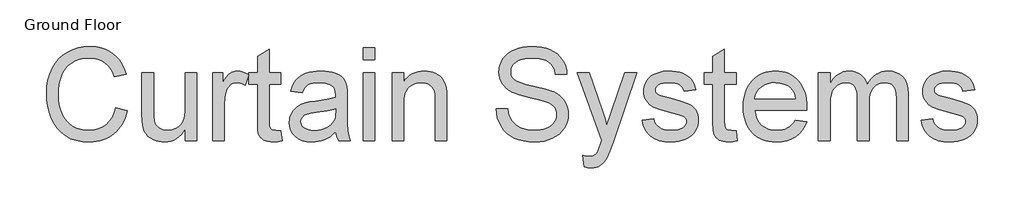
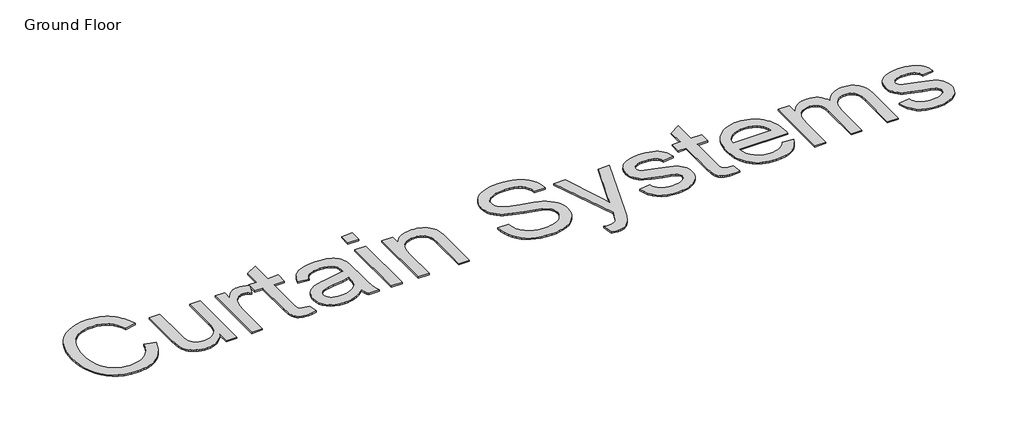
# One storey, part 3 of 12: 1 proxy.
"""IFC4 building model written with IfcOpenShell, lengths in millimetres."""

from ifc_helpers import new_model, si_unit, origin, origin_with_axes, place, context, project, spatial, polyline, outline, extrude, element, save

model = new_model("IFC4")

# Units and contexts
model_context = context("Model", 3, world=origin())
ifc_project = project(units=[si_unit("LENGTHUNIT", "METRE", prefix="MILLI")], contexts=[model_context])

# Site, building, storey
site = spatial("IfcSite", under=ifc_project)
building = spatial("IfcBuilding", under=site)
storey = spatial("IfcBuildingStorey", under=building, Name="Ground Floor", Elevation=0.0)

# Proxy
placement = place(None, origin())
element("IfcBuildingElementProxy", 1, Name="1200mm Arial", ObjectType="1200mm Arial", at=placement, inside=storey, context=model_context, shape_type="SweptSolid", body=[
    extrude(outline(polyline([(-31551.5643915, -3189.6186223), (-31404.6553006, -3227.4936223), (-31433.7250804, -3318.8545065), (-31451.8780012, -3360.2107965), (-31472.4429426, -3398.6843183), (-31495.4199046, -3434.275072), (-31520.8088872, -3466.9830577), (-31548.6098904, -3496.8082752), (-31578.8229142, -3523.7507246), (-31611.120677, -3547.6579733), (-31645.1758971, -3568.3775889), (-31680.9885747, -3585.9095713), (-31718.5587096, -3600.2539206), (-31757.886302, -3611.4106367), (-31798.9713517, -3619.3797196), (-31841.8138588, -3624.1611693), (-31886.4138233, -3625.7549859), (-31975.9993169, -3620.9309447), (-32056.8154568, -3606.4588212), (-32128.862243, -3582.3386152), (-32192.1396756, -3548.5703268), (-32247.5175165, -3505.6560868), (-32295.8655278, -3454.0980257), (-32337.1837096, -3393.8961436), (-32371.4720619, -3325.0504405), (-32398.3988197, -3250.5378339), (-32417.6322182, -3173.3352416), (-32429.1722572, -3093.4426635), (-32433.0189369, -3010.8600996), (-32428.6701265, -2922.2519675), (-32415.6236954, -2839.4900712), (-32393.8796436, -2762.5744106), (-32363.437971, -2691.5049859), (-32324.9801408, -2627.4564241), (-32279.1876159, -2571.6033524), (-32226.0603964, -2523.9457707), (-32165.5984824, -2484.4836791), (-32099.8552295, -2453.5398758), (-32030.8839937, -2431.4371592), (-31958.684775, -2418.1755293), (-31883.2575733, -2413.7549859), (-31799.2313837, -2419.4756891), (-31722.1812238, -2436.6377984), (-31686.2721551, -2449.5093805), (-31652.1070939, -2465.2413141), (-31619.6860401, -2483.8335992), (-31589.0089937, -2505.2862359), (-31560.3359868, -2529.3347089), (-31533.9270513, -2555.714503), (-31509.7821871, -2584.425618), (-31487.9013943, -2615.4680541), (-31450.9320229, -2684.5468893), (-31423.0189369, -2762.9510087), (-31569.9280278, -2797.9566905), (-31593.0619057, -2740.1847622), (-31620.8584256, -2690.8235229), (-31653.3175875, -2649.8729724), (-31690.4393915, -2617.3331109), (-31732.4390363, -2592.5404085), (-31779.531721, -2574.8313354), (-31831.7174454, -2564.2058915), (-31888.9962096, -2560.6640768), (-31954.9008616, -2564.5914561), (-32015.1744767, -2576.3735939), (-32069.8170548, -2596.0104902), (-32118.828596, -2623.502145), (-32161.5904035, -2657.6111649), (-32197.4837807, -2697.1001564), (-32226.5087274, -2741.9691194), (-32248.6652437, -2792.2180541), (-32265.0472572, -2845.5694391), (-32276.7486954, -2899.745753), (-32283.7695584, -2954.7469959), (-32286.109846, -3010.5731677), (-32283.3391606, -3080.7279973), (-32275.0271045, -3146.2919177), (-32261.1736777, -3207.2649291), (-32241.7788801, -3263.6470314), (-32216.5288801, -3314.3173971), (-32185.109846, -3358.155199), (-32147.5217778, -3395.1604369), (-32103.7646756, -3425.3331109), (-32055.963628, -3448.744954), (-32006.2437238, -3465.467699), (-31954.6049632, -3475.501346), (-31901.047346, -3478.845895), (-31837.1781166, -3474.2908524), (-31778.4198602, -3460.6257246), (-31724.7725768, -3437.8505115), (-31676.2362665, -3405.9652132), (-31633.9586564, -3365.1132956), (-31599.0874738, -3315.4382246), (-31571.6227189, -3256.9400001), (-31551.5643915, -3189.6186223)])), origin_with_axes(), (0.0, 0.0, 1.0), 20.0),
    extrude(outline(polyline([(-30670.109846, -3607.3913496), (-30670.109846, -3459.0475996), (-30695.5929781, -3498.1196432), (-30723.2639653, -3531.9820811), (-30753.1228077, -3560.6349131), (-30785.1695051, -3584.0781393), (-30819.4040577, -3602.3117597), (-30855.8264653, -3615.3357743), (-30894.4367281, -3623.150183), (-30935.234846, -3625.7549859), (-30971.6303538, -3623.9257956), (-31006.7884682, -3618.4382246), (-31040.709189, -3609.2922729), (-31073.3925165, -3596.4879405), (-31103.3948247, -3580.9218893), (-31129.2724881, -3563.4907814), (-31151.0255065, -3544.1946166), (-31168.6538801, -3523.033395), (-31183.0632373, -3499.7022516), (-31195.1592068, -3473.8963212), (-31212.4109824, -3414.8600996), (-31218.8669483, -3359.1953268), (-31221.0189369, -3278.2805541), (-31221.0189369, -2744.3004405), (-31074.109846, -2744.3004405), (-31074.109846, -3209.1299859), (-31071.8861244, -3302.095895), (-31065.2149596, -3358.908395), (-31056.4187061, -3385.3868219), (-31043.8026727, -3408.8703979), (-31027.3668595, -3429.359123), (-31007.1112665, -3446.8529973), (-30983.6456237, -3460.84989), (-30957.5796613, -3470.8476706), (-30928.9133794, -3476.8463389), (-30897.6467778, -3478.845895), (-30865.4476479, -3476.8015058), (-30834.2707125, -3470.6683382), (-30804.1159717, -3460.4463922), (-30774.9834256, -3446.1356677), (-30748.451199, -3428.3010619), (-30726.097417, -3407.5074717), (-30707.9220797, -3383.7548971), (-30693.9251869, -3357.0433382), (-30683.5059753, -3325.6691372), (-30676.0636812, -3287.9286365), (-30671.5983048, -3243.8218361), (-30670.109846, -3193.3487359), (-30670.109846, -2744.3004405), (-30523.2007551, -2744.3004405), (-30523.2007551, -3607.3913496), (-30670.109846, -3607.3913496)])), origin_with_axes(), (0.0, 0.0, 1.0), 20.0),
    extrude(outline(polyline([(-30321.2007551, -3607.3913496), (-30321.2007551, -2744.3004405), (-30192.6553006, -2744.3004405), (-30192.6553006, -2871.9850996), (-30168.4454284, -2831.1690484), (-30145.1680846, -2797.9566905), (-30122.8232693, -2772.3480257), (-30101.4109824, -2754.3430541), (-30079.962829, -2741.9153197), (-30057.5104142, -2733.0383666), (-30034.0537381, -2727.7121947), (-30009.5928006, -2725.9368041), (-29973.1524596, -2728.7702558), (-29936.4251869, -2737.2706109), (-29899.4109824, -2751.4378694), (-29862.109846, -2771.2720314), (-29911.1751869, -2902.9737359), (-29936.9990506, -2889.7928055), (-29962.8229142, -2880.3778552), (-29988.6467778, -2874.7288851), (-30014.4706415, -2872.845895), (-30036.9858226, -2874.6571521), (-30058.3353432, -2880.0909234), (-30078.5192033, -2889.1472089), (-30097.5374028, -2901.8260087), (-30114.6726123, -2917.7148581), (-30129.2075023, -2936.4012927), (-30141.1420726, -2957.8853126), (-30150.4763233, -2982.1669177), (-30160.8955349, -3022.2656393), (-30168.337829, -3064.2294177), (-30174.2916642, -3153.752145), (-30174.2916642, -3607.3913496), (-30321.2007551, -3607.3913496)])), origin_with_axes(), (0.0, 0.0, 1.0), 20.0),
    extrude(outline(polyline([(-29458.109846, -3484.8714632), (-29439.7462096, -3611.6953268), (-29497.9216358, -3622.2400712), (-29549.641096, -3625.7549859), (-29587.139498, -3624.2306606), (-29620.1545903, -3619.6576848), (-29648.686373, -3612.0360584), (-29672.734846, -3601.3657814), (-29692.9276727, -3588.2207175), (-29709.8925165, -3573.1747302), (-29723.6293773, -3556.2278197), (-29734.1382551, -3537.3799859), (-29741.9212807, -3512.1120527), (-29747.4805846, -3475.9048439), (-29751.9280278, -3370.6725996), (-29751.9280278, -2891.2095314), (-29862.109846, -2891.2095314), (-29862.109846, -2744.3004405), (-29751.9280278, -2744.3004405), (-29751.9280278, -2534.5532814), (-29605.0189369, -2448.1868041), (-29605.0189369, -2744.3004405), (-29458.109846, -2744.3004405), (-29458.109846, -2891.2095314), (-29605.0189369, -2891.2095314), (-29605.0189369, -3366.3686223), (-29603.0821471, -3414.7166337), (-29597.2717778, -3442.1186223), (-29587.1215648, -3457.2901422), (-29572.1652437, -3468.9467473), (-29550.9681557, -3476.3711081), (-29522.0956415, -3478.845895), (-29458.109846, -3484.8714632)])), origin_with_axes(), (0.0, 0.0, 1.0), 20.0),
    extrude(outline(polyline([(-28760.2916642, -3497.2095314), (-28795.1269802, -3529.9018254), (-28830.4823602, -3557.3934802), (-28866.3578041, -3579.6844959), (-28902.7533119, -3596.7748723), (-28940.0813481, -3609.453672), (-28978.7543773, -3618.5099575), (-29018.7723993, -3623.9437288), (-29060.1354142, -3625.7549859), (-29125.5469021, -3621.3972089), (-29182.9063659, -3608.323878), (-29232.2138055, -3586.534993), (-29273.469221, -3556.0305541), (-29306.044949, -3518.747351), (-29329.3133261, -3476.6221734), (-29343.2743524, -3429.6550214), (-29347.9280278, -3377.845895), (-29346.1705704, -3346.6958595), (-29340.8981983, -3316.9446166), (-29332.1109113, -3288.5921663), (-29319.8087096, -3261.6385087), (-29304.6461564, -3236.6754405), (-29287.2778148, -3214.2947587), (-29267.7036848, -3194.4964632), (-29245.9237665, -3177.2805541), (-29197.3246898, -3149.3047018), (-29143.0587096, -3129.0760087), (-29090.1915221, -3117.8139348), (-29015.9479142, -3106.9822587), (-28865.7391074, -3083.7407814), (-28807.7430136, -3070.6136507), (-28761.1524596, -3056.4822587), (-28760.2916642, -3023.7720314), (-28762.8202508, -2988.1566194), (-28770.4060108, -2958.2081109), (-28783.048944, -2933.9265058), (-28800.7490506, -2915.3118041), (-28831.3431557, -2896.7329689), (-28868.6084256, -2883.4623723), (-28912.5448602, -2875.5000143), (-28963.1524596, -2872.845895), (-29010.2092778, -2874.612319), (-29050.6666642, -2879.911591), (-29084.5246187, -2888.7437111), (-29111.7831415, -2901.1086791), (-29134.1817565, -2917.97489), (-29153.4599881, -2940.3107388), (-29169.6178361, -2968.1162253), (-29182.6553006, -3001.3913496), (-29329.5643915, -2983.0277132), (-29318.3830172, -2940.70527), (-29304.0633261, -2902.6868041), (-29286.6053183, -2868.9723155), (-29266.0089937, -2839.5618041), (-29241.3866571, -2813.8634731), (-29211.8506131, -2791.2855257), (-29177.4008616, -2771.8279618), (-29138.0374028, -2755.4907814), (-29094.5582658, -2742.5609163), (-29047.7614795, -2733.3252984), (-28997.6470442, -2727.7839277), (-28944.2149596, -2725.9368041), (-28891.9844021, -2727.5687288), (-28844.9006841, -2732.464503), (-28802.9638055, -2740.6241266), (-28766.1737665, -2752.0475996), (-28734.2257018, -2765.9368929), (-28706.8147466, -2781.4939774), (-28683.9409007, -2798.7188531), (-28665.6041642, -2817.61152), (-28650.7375094, -2838.6382423), (-28638.2739085, -2862.2652842), (-28620.5558687, -2917.3203268), (-28615.1758971, -2968.1072587), (-28613.3825733, -3045.8657814), (-28613.3825733, -3228.6413496), (-28611.5175165, -3387.8526422), (-28605.922346, -3483.8672018), (-28594.875471, -3546.9563354), (-28576.6553006, -3607.3913496), (-28723.5643915, -3607.3913496), (-28736.6197892, -3582.8586791), (-28747.0928006, -3556.3174859), (-28760.2916642, -3497.2095314)]), holes=[polyline([(-28760.2916642, -3203.3913496), (-28804.6943631, -3216.1060158), (-28858.9962096, -3227.8522871), (-28997.297346, -3248.439645), (-29073.5136102, -3259.7017189), (-29123.6908119, -3272.2549859), (-29156.5803716, -3288.5383666), (-29180.9337096, -3310.9907814), (-29195.9976301, -3337.8906393), (-29201.0189369, -3367.5163496), (-29198.284118, -3390.3453623), (-29190.0796613, -3411.2017189), (-29176.4055669, -3430.0854192), (-29157.2618346, -3446.9964632), (-29132.827797, -3460.9305896), (-29103.2827863, -3470.8835371), (-29068.6268027, -3476.8553055), (-29028.859846, -3478.845895), (-28988.2589937, -3476.6490733), (-28949.953596, -3470.0586081), (-28913.9436528, -3459.0744994), (-28880.2291642, -3443.6967473), (-28849.8143915, -3425.1986116), (-28823.703596, -3404.8533524), (-28801.8967778, -3382.6609696), (-28784.3939369, -3358.6214632), (-28774.2257906, -3337.1015768), (-28766.962829, -3310.9907814), (-28762.605052, -3280.2890768), (-28761.1524596, -3244.9964632), (-28760.2916642, -3203.3913496)])]), origin_with_axes(), (0.0, 0.0, 1.0), 20.0),
    extrude(outline(polyline([(-28411.3825733, -2579.0277132), (-28411.3825733, -2432.1186223), (-28264.4734824, -2432.1186223), (-28264.4734824, -2579.0277132), (-28411.3825733, -2579.0277132)])), origin_with_axes(), (0.0, 0.0, 1.0), 20.0),
    extrude(outline(polyline([(-28411.3825733, -3607.3913496), (-28411.3825733, -2744.3004405), (-28264.4734824, -2744.3004405), (-28264.4734824, -3607.3913496), (-28411.3825733, -3607.3913496)])), origin_with_axes(), (0.0, 0.0, 1.0), 20.0),
    extrude(outline(polyline([(-28044.109846, -3607.3913496), (-28044.109846, -2744.3004405), (-27897.2007551, -2744.3004405), (-27897.2007551, -2864.8118041), (-27872.9639831, -2832.262976), (-27846.1627579, -2804.0539916), (-27816.7970797, -2780.184851), (-27784.8669483, -2760.6555541), (-27750.3723638, -2745.466101), (-27713.3133261, -2734.6164916), (-27673.6898354, -2728.106726), (-27631.5018915, -2725.9368041), (-27594.53252, -2727.6852949), (-27559.0874738, -2732.9307672), (-27525.166753, -2741.673221), (-27492.7703574, -2753.9126564), (-27463.1267139, -2768.9945101), (-27437.4642494, -2786.2642189), (-27415.7829639, -2805.7217828), (-27398.0828574, -2827.3672018), (-27371.3623318, -2877.1140058), (-27354.0388233, -2935.3970314), (-27348.228454, -2991.1335371), (-27346.2916642, -3077.4282814), (-27346.2916642, -3607.3913496), (-27493.2007551, -3607.3913496), (-27493.2007551, -3097.2265768), (-27497.4329994, -3021.261378), (-27502.7233048, -2991.5101351), (-27510.1297324, -2967.2464632), (-27520.2171791, -2946.8115378), (-27533.550542, -2928.5465342), (-27550.1298212, -2912.4514525), (-27569.9550165, -2898.5262927), (-27592.3446649, -2887.2911187), (-27616.6173034, -2879.2659944), (-27642.7729319, -2874.4509199), (-27670.8115506, -2872.845895), (-27715.4204817, -2876.450476), (-27756.8552295, -2887.2642189), (-27795.1157942, -2905.2871237), (-27830.2021756, -2930.5191905), (-27845.9049676, -2946.5559891), (-27859.5140541, -2965.8297373), (-27871.029435, -2988.3404351), (-27880.4511102, -3014.0880825), (-27893.0133439, -3075.294226), (-27897.2007551, -3149.4481677), (-27897.2007551, -3607.3913496), (-28044.109846, -3607.3913496)])), origin_with_axes(), (0.0, 0.0, 1.0), 20.0),
    extrude(outline(polyline([(-26721.9280278, -3203.3913496), (-26575.0189369, -3203.3913496), (-26568.2939724, -3246.1531571), (-26558.1616926, -3284.9158524), (-26544.6220974, -3319.6794355), (-26527.6751869, -3350.4439064), (-26506.4601656, -3377.8279618), (-26480.1162381, -3402.4502984), (-26448.6434042, -3424.3109163), (-26412.0416642, -3443.4098155), (-26371.6560108, -3458.9131003), (-26328.8314369, -3469.9868751), (-26283.5679426, -3476.63114), (-26235.8655278, -3478.845895), (-26193.6686173, -3477.1691372), (-26154.0182267, -3472.1388638), (-26116.914356, -3463.7550747), (-26082.3570051, -3452.01777), (-26051.198003, -3437.3483808), (-26024.2891784, -3420.1683382), (-26001.6305314, -3400.4776422), (-25983.2220619, -3378.2762927), (-25968.9741038, -3354.5237182), (-25958.7969909, -3330.1793467), (-25952.6907231, -3305.2431784), (-25950.6553006, -3279.7152132), (-25952.1796258, -3254.2948474), (-25956.7526017, -3230.5422729), (-25964.3742281, -3208.4574895), (-25975.0445051, -3188.0404973), (-25990.4312238, -3169.1836969), (-26012.2021756, -3151.7794888), (-26040.3573602, -3135.827873), (-26074.8967778, -3121.3288496), (-26152.4759682, -3098.2667047), (-26288.8044483, -3065.2336791), (-26429.2217068, -3028.1118751), (-26480.4659362, -3010.2234696), (-26519.0672324, -2992.783395), (-26558.2961919, -2969.3805186), (-26592.1989795, -2943.3593893), (-26620.7755953, -2914.7200072), (-26644.0260392, -2883.4623723), (-26662.0399774, -2849.9092828), (-26674.9070761, -2814.3835371), (-26682.6273354, -2776.8851351), (-26685.2007551, -2737.4140768), (-26682.0176052, -2693.6659412), (-26672.4681557, -2651.3703979), (-26656.5524064, -2610.5274469), (-26634.2703574, -2571.1370882), (-26605.873074, -2534.8043467), (-26571.6116216, -2503.1342473), (-26531.4860001, -2476.1267899), (-26485.4962096, -2453.7819746), (-26435.1934753, -2436.270167), (-26382.1290221, -2423.7617331), (-26326.3028503, -2416.2566727), (-26267.7149596, -2413.7549859), (-26203.8008971, -2416.3732388), (-26143.7604142, -2424.2279973), (-26087.5935108, -2437.3192615), (-26035.3001869, -2455.6470314), (-25987.8488375, -2479.0499078), (-25946.2078574, -2507.3664916), (-25910.3772466, -2540.5967828), (-25880.3570051, -2578.7407814), (-25856.380265, -2620.6866266), (-25838.6801585, -2665.3224575), (-25827.2566855, -2712.6482743), (-25822.109846, -2762.6640768), (-25969.0189369, -2762.6640768), (-25978.8463517, -2715.786591), (-25995.9905278, -2675.0064064), (-26020.4514653, -2640.3235229), (-26052.2291642, -2611.7379405), (-26091.9154213, -2589.3931251), (-26140.1020335, -2573.4325427), (-26196.7890008, -2563.8561933), (-26261.9763233, -2560.6640768), (-26329.2439014, -2563.8203268), (-26386.7199312, -2573.2890768), (-26434.4044128, -2589.0703268), (-26472.297346, -2611.1640768), (-26501.1698602, -2637.7232033), (-26521.7930846, -2666.9005825), (-26534.1670193, -2698.6962146), (-26538.2916642, -2733.1100996), (-26535.3685463, -2762.7178766), (-26526.5991926, -2789.5639348), (-26511.9836031, -2813.6482743), (-26491.5217778, -2834.970895), (-26459.3136812, -2855.1637217), (-26408.5984824, -2875.5717473), (-26339.3761812, -2896.1949717), (-26251.6467778, -2917.033395), (-26089.6737665, -2956.4147871), (-26032.6819341, -2974.222493), (-25991.6865506, -2990.7748723), (-25946.6472217, -3015.8634731), (-25907.9383261, -3044.0724575), (-25875.5598638, -3075.4018254), (-25849.5118346, -3109.8515768), (-25829.4893737, -3147.2423794), (-25815.1876159, -3187.3949007), (-25806.6065612, -3230.3091408), (-25803.7462096, -3275.9850996), (-25807.0369589, -3321.9390236), (-25816.9092068, -3366.5479547), (-25833.3629533, -3409.8118929), (-25856.3981983, -3451.7308382), (-25885.611444, -3490.6818325), (-25920.5991926, -3525.0419177), (-25961.361444, -3554.8110939), (-26007.8981983, -3579.9893609), (-26058.8554959, -3600.0118219), (-26112.8793773, -3614.3135797), (-26169.9698425, -3622.8946344), (-26230.1268915, -3625.7549859), (-26305.276128, -3622.6704689), (-26374.0590648, -3613.4169177), (-26436.4757018, -3597.9943325), (-26492.5260392, -3576.4027132), (-26542.5508084, -3548.6061933), (-26586.8907409, -3514.5689064), (-26625.5458368, -3474.2908524), (-26658.516096, -3427.7720314), (-26685.0752224, -3376.5188354), (-26704.4969199, -3322.0376564), (-26716.7811883, -3264.3284944), (-26721.9280278, -3203.3913496)])), origin_with_axes(), (0.0, 0.0, 1.0), 20.0),
    extrude(outline(polyline([(-25601.7462096, -3937.9368041), (-25620.109846, -3796.4794177), (-25580.0828574, -3806.1633666), (-25545.5075733, -3809.3913496), (-25506.2696471, -3805.3384376), (-25475.7831415, -3793.1797018), (-25452.0395335, -3773.7759376), (-25433.0303006, -3747.9879405), (-25416.8186528, -3710.0412075), (-25392.859846, -3639.814645), (-25381.3825733, -3604.2350996), (-25693.5643915, -2744.3004405), (-25538.6212096, -2744.3004405), (-25373.0615506, -3223.4765768), (-25342.5750449, -3317.0163496), (-25315.3882551, -3415.1470314), (-25257.7149596, -3245.8572587), (-25087.5643915, -2744.3004405), (-24933.7689369, -2744.3004405), (-25234.1865506, -3628.0504405), (-25278.8044483, -3745.54902), (-25312.2320051, -3819.720895), (-25331.5461031, -3852.6642544), (-25352.1872608, -3880.9091052), (-25374.1554781, -3904.4554476), (-25397.4507551, -3923.3032814), (-25422.5752224, -3937.7395385), (-25450.0310108, -3948.0511507), (-25479.8181202, -3954.238118), (-25511.9365506, -3956.3004405), (-25554.4741926, -3951.7095314), (-25601.7462096, -3937.9368041)])), origin_with_axes(), (0.0, 0.0, 1.0), 20.0),
    extrude(outline(polyline([(-24867.2007551, -3350.3004405), (-24720.2916642, -3331.9368041), (-24711.4147111, -3365.4360939), (-24697.1219199, -3394.7748723), (-24677.4132906, -3419.9531393), (-24652.2888233, -3440.970895), (-24621.6767849, -3457.5412075), (-24585.5054426, -3469.377145), (-24543.7747963, -3476.4787075), (-24496.484846, -3478.845895), (-24449.2486954, -3476.6759731), (-24408.5402437, -3470.1662075), (-24374.3594909, -3459.3165981), (-24346.7064369, -3444.127145), (-24325.3658829, -3426.014574), (-24310.1226301, -3406.3956109), (-24300.9766784, -3385.2702558), (-24297.9280278, -3362.6385087), (-24300.9946116, -3342.8043467), (-24310.1943631, -3325.1939064), (-24325.5272821, -3309.8071876), (-24346.9933687, -3296.6441905), (-24402.0125449, -3277.9936223), (-24498.2064369, -3254.752145), (-24632.275329, -3215.9804831), (-24719.4308687, -3182.8757246), (-24749.3524774, -3166.2785122), (-24775.4184398, -3146.7581819), (-24797.6287558, -3124.3147338), (-24815.9834256, -3098.9481677), (-24830.3569163, -3071.4206464), (-24840.6236954, -3042.4943325), (-24846.7837629, -3012.169226), (-24848.8371187, -2980.4453268), (-24847.1872608, -2951.4383133), (-24842.2376869, -2923.5252274), (-24833.9883971, -2896.706069), (-24822.4393915, -2870.9808382), (-24808.0390008, -2846.8695989), (-24791.2355562, -2824.8924149), (-24772.0290577, -2805.0492864), (-24750.4195051, -2787.3402132), (-24709.8545193, -2763.7042047), (-24657.0231983, -2743.8700427), (-24595.9425875, -2730.4201138), (-24530.6297324, -2725.9368041), (-24481.2595264, -2727.7390946), (-24435.009704, -2733.145966), (-24391.880265, -2742.1574185), (-24351.8712096, -2754.7734518), (-24315.9329994, -2770.4650356), (-24285.016096, -2788.7031393), (-24259.1204994, -2809.4877629), (-24238.2462096, -2832.8189064), (-24221.3172324, -2859.5125321), (-24207.2575733, -2890.3846024), (-24196.0672324, -2925.4351173), (-24187.7462096, -2964.6640768), (-24334.6553006, -2983.0277132), (-24341.6582302, -2958.4860761), (-24353.1982693, -2936.795824), (-24369.2754177, -2917.9569568), (-24389.8896756, -2901.9694746), (-24415.1307089, -2889.2279085), (-24445.0881841, -2880.1267899), (-24479.762101, -2874.6661187), (-24519.1524596, -2872.845895), (-24564.8463517, -2874.5854192), (-24603.5104142, -2879.8039916), (-24635.1446471, -2888.5016123), (-24659.7490506, -2900.6782814), (-24678.2023531, -2915.1683382), (-24691.3832835, -2930.8061223), (-24699.2918417, -2947.5916337), (-24701.9280278, -2965.5248723), (-24697.5523176, -2988.120753), (-24684.4251869, -3008.2777132), (-24661.9727721, -3026.2826848), (-24629.6212096, -3040.7010087), (-24503.0842778, -3071.9765768), (-24373.2834966, -3110.3537075), (-24287.4550165, -3141.127145), (-24257.2554426, -3156.1372658), (-24230.4990506, -3174.1960371), (-24207.1858403, -3195.3034589), (-24187.3158119, -3219.4595314), (-24171.4359291, -3246.7001209), (-24160.0931557, -3277.0610939), (-24153.2874916, -3310.5424504), (-24151.0189369, -3347.1441905), (-24153.6820229, -3383.9073297), (-24161.6712807, -3419.5944746), (-24174.9867104, -3454.2056251), (-24193.6283119, -3487.7407814), (-24217.2912203, -3518.863917), (-24245.6705704, -3546.2390058), (-24278.7663623, -3569.8660477), (-24316.578596, -3589.7450427), (-24358.0761102, -3605.4993929), (-24402.2277437, -3616.7525001), (-24449.0334966, -3623.5043645), (-24498.4933687, -3625.7549859), (-24577.5610179, -3621.4151422), (-24646.6219199, -3608.3956109), (-24705.6760747, -3586.6963922), (-24754.7234824, -3556.3174859), (-24794.7863375, -3517.4023581), (-24826.8868346, -3470.0944746), (-24851.0249738, -3414.3938354), (-24867.2007551, -3350.3004405)])), origin_with_axes(), (0.0, 0.0, 1.0), 20.0),
    extrude(outline(polyline([(-23673.5643915, -3484.8714632), (-23655.2007551, -3611.6953268), (-23713.3761812, -3622.2400712), (-23765.0956415, -3625.7549859), (-23802.5940435, -3624.2306606), (-23835.6091358, -3619.6576848), (-23864.1409185, -3612.0360584), (-23888.1893915, -3601.3657814), (-23908.3822182, -3588.2207175), (-23925.3470619, -3573.1747302), (-23939.0839227, -3556.2278197), (-23949.5928006, -3537.3799859), (-23957.3758261, -3512.1120527), (-23962.9351301, -3475.9048439), (-23967.3825733, -3370.6725996), (-23967.3825733, -2891.2095314), (-24077.5643915, -2891.2095314), (-24077.5643915, -2744.3004405), (-23967.3825733, -2744.3004405), (-23967.3825733, -2534.5532814), (-23820.4734824, -2448.1868041), (-23820.4734824, -2744.3004405), (-23673.5643915, -2744.3004405), (-23673.5643915, -2891.2095314), (-23820.4734824, -2891.2095314), (-23820.4734824, -3366.3686223), (-23818.5366926, -3414.7166337), (-23812.7263233, -3442.1186223), (-23802.5761102, -3457.2901422), (-23787.6197892, -3468.9467473), (-23766.4227011, -3476.3711081), (-23737.5501869, -3478.845895), (-23673.5643915, -3484.8714632)])), origin_with_axes(), (0.0, 0.0, 1.0), 20.0),
    extrude(outline(polyline([(-22922.3768915, -3350.3004405), (-22778.3371187, -3368.6640768), (-22800.4219021, -3426.3553055), (-22830.2359113, -3477.1960371), (-22867.7791464, -3521.1862714), (-22913.0516074, -3558.3260087), (-22965.58703, -3587.8261862), (-23024.91915, -3608.8977416), (-23091.0479675, -3621.5406748), (-23163.9734824, -3625.7549859), (-23210.7926851, -3623.9370039), (-23255.1281344, -3618.4830577), (-23296.97983, -3609.3931473), (-23336.3477721, -3596.6672729), (-23373.2319607, -3580.3054343), (-23407.6323957, -3560.3076315), (-23439.5490772, -3536.6738647), (-23468.9820051, -3509.4041337), (-23495.4111155, -3478.85262), (-23518.3163446, -3445.3735051), (-23537.6976922, -3408.966789), (-23553.5551585, -3369.6324717), (-23565.8887434, -3327.3705532), (-23574.6984469, -3282.1810335), (-23579.9842689, -3234.0639126), (-23581.7462096, -3183.0191905), (-23579.9663357, -3130.2371859), (-23574.6267139, -3080.4948652), (-23565.7273442, -3033.7922285), (-23553.2682267, -2990.1292757), (-23537.2493613, -2949.5060069), (-23517.670748, -2911.922422), (-23494.5323868, -2877.3785211), (-23467.8342778, -2845.8743041), (-23438.2982338, -2817.7639525), (-23406.6460676, -2793.4016479), (-23372.8777792, -2772.78739), (-23336.9933687, -2755.9211791), (-23298.9928361, -2742.803015), (-23258.8761812, -2733.4328979), (-23216.6434042, -2727.8108275), (-23172.2945051, -2725.9368041), (-23129.3959566, -2727.8063442), (-23088.5014476, -2733.4149646), (-23049.6109779, -2742.7626653), (-23012.7245477, -2755.8494462), (-22977.8421569, -2772.6753073), (-22944.9638055, -2793.2402487), (-22914.0894936, -2817.5442704), (-22885.219221, -2845.5873723), (-22859.092734, -2877.0198563), (-22836.4497785, -2911.4920243), (-22817.2903547, -2949.0038762), (-22801.6144625, -2989.5554121), (-22789.4221019, -3033.1466319), (-22780.7132729, -3079.7775356), (-22775.4879754, -3129.4481234), (-22773.7462096, -3182.158395), (-22774.6070051, -3221.7549859), (-23434.8371187, -3221.7549859), (-23426.327797, -3280.378743), (-23409.4077863, -3331.7216052), (-23384.0770868, -3375.7835726), (-23350.3356983, -3412.564645), (-23310.0486777, -3441.5626919), (-23265.0810818, -3462.2755825), (-23215.4329106, -3474.7033169), (-23161.1041642, -3478.845895), (-23120.4674454, -3476.9270385), (-23082.9152437, -3471.1704689), (-23048.4475591, -3461.5761862), (-23017.0643915, -3448.1441905), (-22988.7657409, -3430.5158169), (-22963.5516074, -3408.3324007), (-22941.4219909, -3381.5939419), (-22922.3768915, -3350.3004405)]), holes=[polyline([(-23434.8371187, -3074.845895), (-22920.6553006, -3074.845895), (-22928.205194, -3033.2766479), (-22940.525329, -2997.2308382), (-22957.6157054, -2966.708466), (-22979.4763233, -2941.7095314), (-23019.5391784, -2911.5816905), (-23065.125471, -2890.0618041), (-23116.2352011, -2877.1498723), (-23172.8683687, -2872.845895), (-23224.5250626, -2876.2801102), (-23271.8957125, -2886.5827558), (-23314.9803183, -2903.7538318), (-23353.7788801, -2927.7933382), (-23386.3366748, -2957.5894142), (-23410.6989795, -2992.030199), (-23426.8657942, -3031.1156926), (-23434.8371187, -3074.845895)])]), origin_with_axes(), (0.0, 0.0, 1.0), 20.0),
    extrude(outline(polyline([(-22626.8371187, -3607.3913496), (-22626.8371187, -2744.3004405), (-22479.9280278, -2744.3004405), (-22479.9280278, -2886.3316905), (-22459.4124028, -2851.9447054), (-22435.7405278, -2821.0905683), (-22408.9124028, -2793.7692793), (-22378.9280278, -2769.9808382), (-22346.2716003, -2750.7115733), (-22311.4273176, -2736.9478126), (-22274.3951798, -2728.6895562), (-22235.1751869, -2725.9368041), (-22192.2968133, -2728.743356), (-22153.4713517, -2737.1630115), (-22118.698802, -2751.1957707), (-22087.9791642, -2770.8416337), (-22061.4021045, -2795.5446699), (-22039.0572892, -2824.748949), (-22020.9447182, -2858.454471), (-22007.0643915, -2896.6612359), (-21981.2315612, -2856.6476972), (-21953.5157409, -2821.969297), (-21923.9169305, -2792.6260353), (-21892.4351301, -2768.6179121), (-21859.0703396, -2749.9449273), (-21823.8225591, -2736.6070811), (-21786.6917885, -2728.6043734), (-21747.6780278, -2725.9368041), (-21688.8659717, -2730.3752807), (-21637.2451443, -2743.6907104), (-21592.8155456, -2765.8830932), (-21555.5771756, -2796.9524291), (-21526.1397643, -2837.2573829), (-21505.113042, -2887.1566194), (-21492.4970087, -2946.6501386), (-21488.2916642, -3015.7379405), (-21488.2916642, -3607.3913496), (-21635.2007551, -3607.3913496), (-21635.2007551, -3078.8629405), (-21638.6080704, -3005.5877274), (-21648.8300165, -2956.1995882), (-21657.0255065, -2938.3829156), (-21667.9827153, -2922.3775001), (-21681.7016429, -2908.1833418), (-21698.1822892, -2895.8004405), (-21716.8238908, -2885.7578268), (-21737.0256841, -2878.5845314), (-21782.109846, -2872.845895), (-21823.7418595, -2876.5222089), (-21861.6975591, -2887.5511507), (-21895.9769447, -2905.9327203), (-21926.5800165, -2931.6669177), (-21951.7493169, -2965.5069391), (-21969.7273886, -3008.2059802), (-21980.5142317, -3059.7640413), (-21984.109846, -3120.1811223), (-21984.109846, -3607.3913496), (-22131.0189369, -3607.3913496), (-22131.0189369, -3062.5078268), (-22133.1440257, -3017.9975285), (-22139.519292, -2979.4410655), (-22150.1447359, -2946.8384376), (-22165.0203574, -2920.189645), (-22184.7379533, -2899.4767544), (-22209.8893204, -2884.6818325), (-22240.4744589, -2875.8048794), (-22276.4933687, -2872.845895), (-22305.3479497, -2874.8185513), (-22333.0906699, -2880.73652), (-22359.7215292, -2890.5998013), (-22385.2405278, -2904.408395), (-22408.4820051, -2922.0188354), (-22428.2803006, -2943.2876564), (-22444.6354142, -2968.2148581), (-22457.547346, -2996.8004405), (-22467.3388943, -3030.5687288), (-22474.3328574, -3071.0440484), (-22479.9280278, -3172.1157814), (-22479.9280278, -3607.3913496), (-22626.8371187, -3607.3913496)])), origin_with_axes(), (0.0, 0.0, 1.0), 20.0),
    extrude(outline(polyline([(-21323.0189369, -3350.3004405), (-21176.109846, -3331.9368041), (-21167.2328929, -3365.4360939), (-21152.9401017, -3394.7748723), (-21133.2314724, -3419.9531393), (-21108.1070051, -3440.970895), (-21077.4949667, -3457.5412075), (-21041.3236244, -3469.377145), (-20999.5929781, -3476.4787075), (-20952.3030278, -3478.845895), (-20905.0668773, -3476.6759731), (-20864.3584256, -3470.1662075), (-20830.1776727, -3459.3165981), (-20802.5246187, -3444.127145), (-20781.1840648, -3426.014574), (-20765.9408119, -3406.3956109), (-20756.7948602, -3385.2702558), (-20753.7462096, -3362.6385087), (-20756.8127935, -3342.8043467), (-20766.0125449, -3325.1939064), (-20781.3454639, -3309.8071876), (-20802.8115506, -3296.6441905), (-20857.8307267, -3277.9936223), (-20954.0246187, -3254.752145), (-21088.0935108, -3215.9804831), (-21175.2490506, -3182.8757246), (-21205.1706592, -3166.2785122), (-21231.2366216, -3146.7581819), (-21253.4469376, -3124.3147338), (-21271.8016074, -3098.9481677), (-21286.1750981, -3071.4206464), (-21296.4418773, -3042.4943325), (-21302.6019447, -3012.169226), (-21304.6553006, -2980.4453268), (-21303.0054426, -2951.4383133), (-21298.0558687, -2923.5252274), (-21289.806579, -2896.706069), (-21278.2575733, -2870.9808382), (-21263.8571827, -2846.8695989), (-21247.0537381, -2824.8924149), (-21227.8472395, -2805.0492864), (-21206.2376869, -2787.3402132), (-21165.6727011, -2763.7042047), (-21112.8413801, -2743.8700427), (-21051.7607693, -2730.4201138), (-20986.4479142, -2725.9368041), (-20937.0777082, -2727.7390946), (-20890.8278858, -2733.145966), (-20847.6984469, -2742.1574185), (-20807.6893915, -2754.7734518), (-20771.7511812, -2770.4650356), (-20740.8342778, -2788.7031393), (-20714.9386812, -2809.4877629), (-20694.0643915, -2832.8189064), (-20677.1354142, -2859.5125321), (-20663.0757551, -2890.3846024), (-20651.8854142, -2925.4351173), (-20643.5643915, -2964.6640768), (-20790.4734824, -2983.0277132), (-20797.4764121, -2958.4860761), (-20809.0164511, -2936.795824), (-20825.0935996, -2917.9569568), (-20845.7078574, -2901.9694746), (-20870.9488908, -2889.2279085), (-20900.9063659, -2880.1267899), (-20935.5802828, -2874.6661187), (-20974.9706415, -2872.845895), (-21020.6645335, -2874.5854192), (-21059.328596, -2879.8039916), (-21090.962829, -2888.5016123), (-21115.5672324, -2900.6782814), (-21134.0205349, -2915.1683382), (-21147.2014653, -2930.8061223), (-21155.1100236, -2947.5916337), (-21157.7462096, -2965.5248723), (-21153.3704994, -2988.120753), (-21140.2433687, -3008.2777132), (-21117.790954, -3026.2826848), (-21085.4393915, -3040.7010087), (-20958.9024596, -3071.9765768), (-20829.1016784, -3110.3537075), (-20743.2731983, -3141.127145), (-20713.0736244, -3156.1372658), (-20686.3172324, -3174.1960371), (-20663.0040221, -3195.3034589), (-20643.1339937, -3219.4595314), (-20627.2541109, -3246.7001209), (-20615.9113375, -3277.0610939), (-20609.1056734, -3310.5424504), (-20606.8371187, -3347.1441905), (-20609.5002047, -3383.9073297), (-20617.4894625, -3419.5944746), (-20630.8048922, -3454.2056251), (-20649.4464937, -3487.7407814), (-20673.1094021, -3518.863917), (-20701.4887523, -3546.2390058), (-20734.5845442, -3569.8660477), (-20772.3967778, -3589.7450427), (-20813.894292, -3605.4993929), (-20858.0459256, -3616.7525001), (-20904.8516784, -3623.5043645), (-20954.3115506, -3625.7549859), (-21033.3791997, -3621.4151422), (-21102.4401017, -3608.3956109), (-21161.4942565, -3586.6963922), (-21210.5416642, -3556.3174859), (-21250.6045193, -3517.4023581), (-21282.7050165, -3470.0944746), (-21306.8431557, -3414.3938354), (-21323.0189369, -3350.3004405)])), origin_with_axes(), (0.0, 0.0, 1.0), 20.0),
])

save(model, "model.ifc")
